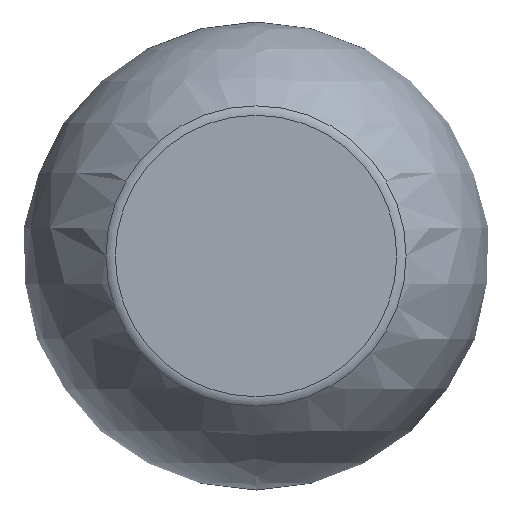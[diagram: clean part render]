
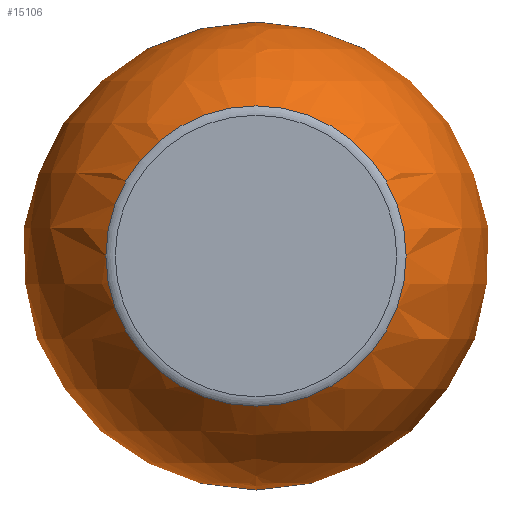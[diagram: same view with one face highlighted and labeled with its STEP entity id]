
A CAD part, left-side view. The second image highlights one B-rep face of the part: STEP entity #15106.
In plain terms, the highlighted spherical face has radius 12.186 mm.
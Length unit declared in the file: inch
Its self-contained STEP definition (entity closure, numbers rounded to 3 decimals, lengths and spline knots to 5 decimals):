
#15=SPHERICAL_SURFACE('',#15893,0.47975);
#1375=FACE_BOUND('',#3490,.T.);
#2588=FACE_OUTER_BOUND('',#3489,.T.);
#3489=EDGE_LOOP('',(#14086,#14087,#14088,#14089,#14090,#14091,#14092));
#3490=EDGE_LOOP('',(#14093,#14094));
#5985=CIRCLE('',#15889,0.26399);
#5987=CIRCLE('',#15891,0.26399);
#5988=CIRCLE('',#15894,0.30778);
#5989=CIRCLE('',#15895,0.47975);
#5990=CIRCLE('',#15896,0.30778);
#5991=CIRCLE('',#15897,0.47975);
#5992=CIRCLE('',#15898,0.30778);
#7458=VERTEX_POINT('',#35654);
#7459=VERTEX_POINT('',#35655);
#7460=VERTEX_POINT('',#35661);
#7461=VERTEX_POINT('',#35662);
#7462=VERTEX_POINT('',#35664);
#7463=VERTEX_POINT('',#35666);
#7464=VERTEX_POINT('',#35668);
#9682=EDGE_CURVE('',#7458,#7459,#5985,.T.);
#9684=EDGE_CURVE('',#7459,#7458,#5987,.T.);
#9685=EDGE_CURVE('',#7460,#7461,#5988,.T.);
#9686=EDGE_CURVE('',#7462,#7461,#5989,.T.);
#9687=EDGE_CURVE('',#7461,#7463,#5990,.T.);
#9688=EDGE_CURVE('',#7463,#7464,#5991,.T.);
#9689=EDGE_CURVE('',#7463,#7460,#5992,.T.);
#14086=ORIENTED_EDGE('',*,*,#9685,.T.);
#14087=ORIENTED_EDGE('',*,*,#9686,.F.);
#14088=ORIENTED_EDGE('',*,*,#9686,.T.);
#14089=ORIENTED_EDGE('',*,*,#9687,.T.);
#14090=ORIENTED_EDGE('',*,*,#9688,.T.);
#14091=ORIENTED_EDGE('',*,*,#9688,.F.);
#14092=ORIENTED_EDGE('',*,*,#9689,.T.);
#14093=ORIENTED_EDGE('',*,*,#9682,.F.);
#14094=ORIENTED_EDGE('',*,*,#9684,.F.);
#15106=ADVANCED_FACE('',(#2588,#1375),#15,.T.);
#15889=AXIS2_PLACEMENT_3D('',#35656,#18453,#18454);
#15891=AXIS2_PLACEMENT_3D('',#35658,#18457,#18458);
#15893=AXIS2_PLACEMENT_3D('',#35660,#18461,#18462);
#15894=AXIS2_PLACEMENT_3D('',#35663,#18463,#18464);
#15895=AXIS2_PLACEMENT_3D('',#35665,#18465,#18466);
#15896=AXIS2_PLACEMENT_3D('',#35667,#18467,#18468);
#15897=AXIS2_PLACEMENT_3D('',#35669,#18469,#18470);
#15898=AXIS2_PLACEMENT_3D('',#35670,#18471,#18472);
#18453=DIRECTION('center_axis',(1.,0.,0.));
#18454=DIRECTION('ref_axis',(0.,-1.,0.));
#18457=DIRECTION('center_axis',(1.,0.,0.));
#18458=DIRECTION('ref_axis',(0.,-1.,0.));
#18461=DIRECTION('center_axis',(0.,0.,1.));
#18462=DIRECTION('ref_axis',(1.,0.,0.));
#18463=DIRECTION('center_axis',(1.,0.,0.));
#18464=DIRECTION('ref_axis',(0.,1.,0.));
#18465=DIRECTION('center_axis',(0.,-1.,0.));
#18466=DIRECTION('ref_axis',(-1.,0.,0.));
#18467=DIRECTION('center_axis',(1.,0.,0.));
#18468=DIRECTION('ref_axis',(0.,1.,0.));
#18469=DIRECTION('center_axis',(0.,-1.,0.));
#18470=DIRECTION('ref_axis',(-1.,0.,0.));
#18471=DIRECTION('center_axis',(1.,0.,0.));
#18472=DIRECTION('ref_axis',(0.,1.,0.));
#35654=CARTESIAN_POINT('',(-1.70629,38.34969,0.));
#35655=CARTESIAN_POINT('',(-1.70629,38.0857,0.26399));
#35656=CARTESIAN_POINT('Origin',(-1.70629,38.0857,0.));
#35658=CARTESIAN_POINT('Origin',(-1.70629,38.0857,0.));
#35660=CARTESIAN_POINT('Origin',(-2.10688,38.0857,0.));
#35661=CARTESIAN_POINT('',(-2.47489,38.39348,0.));
#35662=CARTESIAN_POINT('',(-2.47489,38.0857,0.30778));
#35663=CARTESIAN_POINT('Origin',(-2.47489,38.0857,0.));
#35664=CARTESIAN_POINT('',(-2.10688,38.0857,0.47975));
#35665=CARTESIAN_POINT('Origin',(-2.10688,38.0857,0.));
#35666=CARTESIAN_POINT('',(-2.47489,38.0857,-0.30778));
#35667=CARTESIAN_POINT('Origin',(-2.47489,38.0857,0.));
#35668=CARTESIAN_POINT('',(-2.10688,38.0857,-0.47975));
#35669=CARTESIAN_POINT('Origin',(-2.10688,38.0857,0.));
#35670=CARTESIAN_POINT('Origin',(-2.47489,38.0857,0.));
